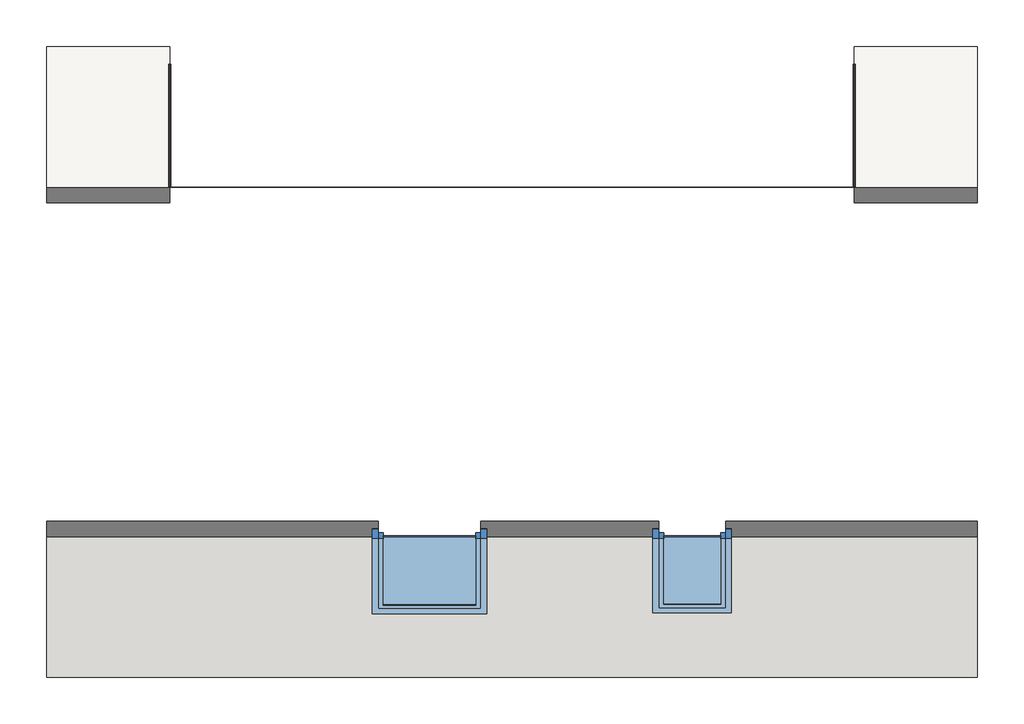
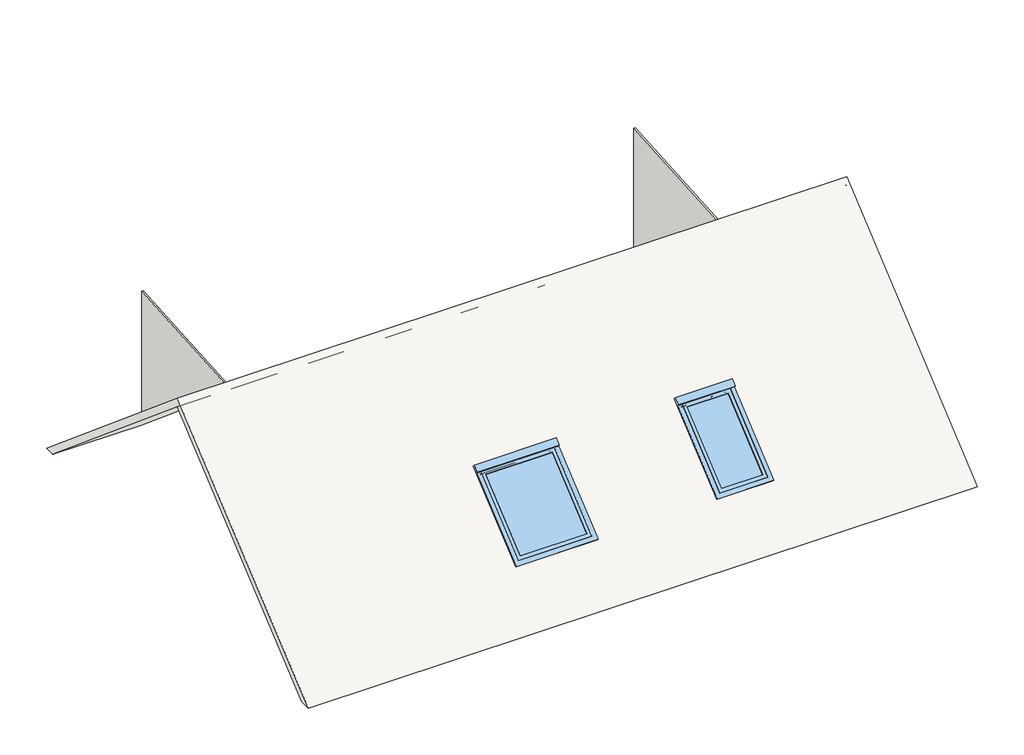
# One storey: 2 walls, 2 windows, 1 roof.
"""IFC4 building model written with IfcOpenShell, lengths in millimetres."""

from ifc_helpers import new_model, si_unit, frame, origin, place, context, project, spatial, polyline, outline, extrude, faceted_brep, transform, mapped, element, save
from components import window_50da2577, window_869f44c6

model = new_model("IFC4")

# Units and contexts
model_context = context("Model", 3, world=origin())
ifc_project = project(units=[si_unit("LENGTHUNIT", "METRE", prefix="MILLI")], contexts=[model_context])

# Site, building, storey
site = spatial("IfcSite", under=ifc_project)
building = spatial("IfcBuilding", under=site)
storey = spatial("IfcBuildingStorey", under=building, Name="3.65_Sablière", Elevation=3650.0)

# Roof
placement = place(None, origin())
element("IfcRoof", 1, ObjectType="Toiture", at=placement, inside=storey, context=model_context, shape_type="Brep", body=[
    faceted_brep([(-9871.7726031, 7264.3507886, 3650.0407289), (-8621.7726031, 7264.3507886, 3650.0407289), (-8621.7726031, 4214.9231713, 6208.8143179), (-18081.7726031, 4214.9231713, 6208.8143179), (-18081.7726031, 7264.3507886, 3650.0407289), (-16831.7726031, 7264.3507886, 3650.0407289), (-16831.7726031, 5219.9231713, 5365.5191886), (-9871.7726031, 5219.9231713, 5365.5191886), (-8621.7726031, 1165.495554, 3650.0407289), (-18081.7726031, 1165.495554, 3650.0407289), (-14710.6456194, 2719.6561415, 4954.1363047), (-14710.6456194, 1711.9476167, 4108.5684532), (-13670.6456194, 1711.9476167, 4108.5684532), (-13670.6456194, 2719.6561415, 4954.1363047), (-11861.7726031, 2727.1854944, 4960.4541819), (-11861.7726031, 1719.4769695, 4114.8863304), (-11181.7726031, 1719.4769695, 4114.8863304), (-11181.7726031, 2727.1854944, 4960.4541819), (-18081.7726031, 7419.9231713, 3650.0407289), (-18081.7726031, 4214.9231713, 6339.3550469), (-8621.7726031, 4214.9231713, 6339.3550469), (-8621.7726031, 7419.9231713, 3650.0407289), (-9871.7726031, 7419.9231713, 3650.0407289), (-9871.7726031, 5182.4512571, 5527.5025869), (-16831.7726031, 5182.4512571, 5527.5025869), (-16831.7726031, 7419.9231713, 3650.0407289), (-18081.7726031, 1009.9231713, 3650.0407289), (-8621.7726031, 1009.9231713, 3650.0407289), (-14770.6456194, 2709.8680266, 5076.46383), (-13610.6456194, 2709.8680266, 5076.46383), (-13610.6456194, 1668.047584, 4202.2726809), (-14770.6456194, 1668.047584, 4202.2726809), (-11921.7726031, 2717.3973794, 5082.7817072), (-11121.7726031, 2717.3973794, 5082.7817072), (-11121.7726031, 1675.5769368, 4208.5905581), (-11921.7726031, 1675.5769368, 4208.5905581), (-16831.7726031, 5182.4512571, 5427.2583971), (-16831.7726031, 5219.9231713, 5429.8786886), (-9871.7726031, 5219.9231713, 5429.8786886), (-9871.7726031, 5182.4512571, 5427.2583971), (-14710.6456194, 2665.4029628, 4973.8828469), (-14710.6456194, 1746.149631, 4202.5377153), (-13670.6456194, 1746.149631, 4202.5377153), (-13670.6456194, 2665.4029628, 4973.8828469), (-14770.6456194, 2742.0074071, 5038.1616079), (-14770.6456194, 1700.1869644, 4163.9704587), (-13610.6456194, 1700.1869644, 4163.9704587), (-13610.6456194, 2742.0074071, 5038.1616079), (-11861.7726031, 2672.9323156, 4980.2007241), (-11861.7726031, 1753.6789839, 4208.8555925), (-11181.7726031, 1753.6789839, 4208.8555925), (-11181.7726031, 2672.9323156, 4980.2007241), (-11921.7726031, 2749.5367599, 5044.4794851), (-11921.7726031, 1707.7163173, 4170.2883359), (-11121.7726031, 1707.7163173, 4170.2883359), (-11121.7726031, 2749.5367599, 5044.4794851)], [[[0, 1, 2, 3, 4, 5, 6, 7]], [[3, 2, 8, 9], [10, 11, 12, 13], [14, 15, 16, 17]], [[18, 19, 20, 21, 22, 23, 24, 25]], [[20, 19, 26, 27], [28, 29, 30, 31], [32, 33, 34, 35]], [[5, 4, 18, 25]], [[9, 8, 27, 26]], [[1, 0, 22, 21]], [[6, 5, 25, 24, 36, 37]], [[7, 6, 37, 38]], [[0, 7, 38, 39, 23, 22]], [[4, 3, 9, 26, 19, 18]], [[2, 1, 21, 20, 27, 8]], [[36, 39, 38, 37]], [[39, 36, 24, 23]], [[10, 40, 41, 11]], [[12, 42, 43, 13]], [[44, 45, 46, 47], [41, 40, 43, 42]], [[44, 47, 29, 28]], [[47, 46, 30, 29]], [[46, 45, 31, 30]], [[45, 44, 28, 31]], [[40, 10, 13, 43]], [[11, 41, 42, 12]], [[14, 48, 49, 15]], [[16, 50, 51, 17]], [[52, 53, 54, 55], [49, 48, 51, 50]], [[52, 55, 33, 32]], [[55, 54, 34, 33]], [[54, 53, 35, 34]], [[53, 52, 32, 35]], [[48, 14, 17, 51]], [[15, 49, 50, 16]]]),
])

# Walls
element("IfcWall", 2, ObjectType="Bardage zinc", at=placement, inside=storey, context=model_context, shape_type="SweptSolid", body=[
    extrude(outline(polyline([(7239.9231713, 3801.0786625), (5182.4512571, 5527.5025869), (7239.9231713, 5671.3750385), (7239.9231713, 3801.0786625)])), frame((-9881.7726031, 0.0, 0.0), z_axis=(1.0, 0.0, 0.0), x_axis=(0.0, 1.0, 0.0)), (0.0, 0.0, 1.0), 20.0),
])
element("IfcWall", 3, ObjectType="Bardage zinc", at=placement, inside=storey, context=model_context, shape_type="SweptSolid", body=[
    extrude(outline(polyline([(7239.9231713, 3801.0786625), (5182.4512571, 5527.5025869), (7239.9231713, 5671.3750385), (7239.9231713, 3801.0786625)])), frame((-16841.7726031, 0.0, 0.0), z_axis=(1.0, 0.0, 0.0), x_axis=(0.0, 1.0, 0.0)), (0.0, 0.0, 1.0), 20.0),
])

# Windows
window_shape = window_50da2577(model_context)
element("IfcWindow", 4, ObjectType="Fenêtre de toit : Fenêtre de toit", at=placement, inside=storey, context=model_context, shape_type="MappedRepresentation", body=[
    mapped(window_shape, transform((-11521.7726031, 4816.595469, 1492.0481637), x_axis=(-0.9999999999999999, 0.0, 0.0), y_axis=(0.0, -0.7660444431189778, -0.6427876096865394), z_axis=(0.0, -0.6427876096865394, 0.7660444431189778))),
])
window_2_shape = window_869f44c6(model_context)
element("IfcWindow", 5, ObjectType="Fenêtre de toit : 114/118", at=placement, inside=storey, context=model_context, shape_type="MappedRepresentation", body=[
    mapped(window_2_shape, transform((-14190.6456194, 4809.0661161, 1485.7302865), x_axis=(-0.9999999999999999, 0.0, 0.0), y_axis=(0.0, -0.7660444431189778, -0.6427876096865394), z_axis=(0.0, -0.6427876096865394, 0.7660444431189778))),
])

save(model, "model.ifc")
